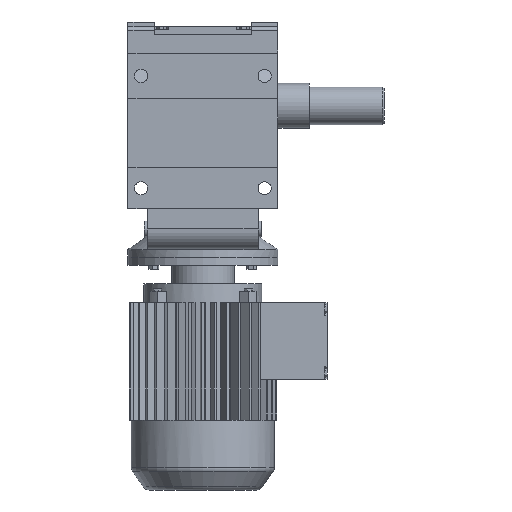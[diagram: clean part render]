
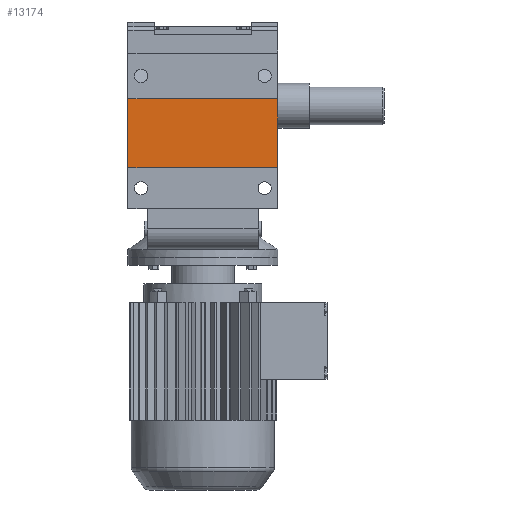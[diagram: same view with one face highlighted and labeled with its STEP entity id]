
A CAD part, front view. The second image highlights one B-rep face of the part: STEP entity #13174.
In plain terms, the highlighted planar face has unit normal (0, -1, 0).
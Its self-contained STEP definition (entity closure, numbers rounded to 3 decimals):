
#5613 = PLANE('',#5614);
#5614 = AXIS2_PLACEMENT_3D('',#5615,#5616,#5617);
#5615 = CARTESIAN_POINT('',(100.,-141.7,80.));
#5616 = DIRECTION('',(1.,0.,0.));
#5617 = DIRECTION('',(0.,0.,-1.));
#6885 = PLANE('',#6886);
#6886 = AXIS2_PLACEMENT_3D('',#6887,#6888,#6889);
#6887 = CARTESIAN_POINT('',(-100.,-141.7,80.));
#6888 = DIRECTION('',(1.,0.,0.));
#6889 = DIRECTION('',(0.,0.,-1.));
#9201 = VERTEX_POINT('',#9202);
#9202 = CARTESIAN_POINT('',(100.,-173.7,9.5));
#9216 = PLANE('',#9217);
#9217 = AXIS2_PLACEMENT_3D('',#9218,#9219,#9220);
#9218 = CARTESIAN_POINT('',(100.,-173.7,9.5));
#9219 = DIRECTION('',(0.,0.,1.));
#9220 = DIRECTION('',(1.,0.,0.));
#9228 = EDGE_CURVE('',#9201,#9229,#9231,.T.);
#9229 = VERTEX_POINT('',#9230);
#9230 = CARTESIAN_POINT('',(100.,-173.7,-82.5));
#9231 = SURFACE_CURVE('',#9232,(#9236,#9243),.PCURVE_S1.);
#9232 = LINE('',#9233,#9234);
#9233 = CARTESIAN_POINT('',(100.,-173.7,9.5));
#9234 = VECTOR('',#9235,1.);
#9235 = DIRECTION('',(0.,0.,-1.));
#9236 = PCURVE('',#5613,#9237);
#9237 = DEFINITIONAL_REPRESENTATION('',(#9238),#9242);
#9238 = LINE('',#9239,#9240);
#9239 = CARTESIAN_POINT('',(70.5,-32.));
#9240 = VECTOR('',#9241,1.);
#9241 = DIRECTION('',(1.,0.));
#9242 = ( GEOMETRIC_REPRESENTATION_CONTEXT(2) 
PARAMETRIC_REPRESENTATION_CONTEXT() REPRESENTATION_CONTEXT('2D SPACE',''
  ) );
#9243 = PCURVE('',#9244,#9249);
#9244 = PLANE('',#9245);
#9245 = AXIS2_PLACEMENT_3D('',#9246,#9247,#9248);
#9246 = CARTESIAN_POINT('',(73.75,-173.7,85.));
#9247 = DIRECTION('',(0.,1.,0.));
#9248 = DIRECTION('',(0.,0.,1.));
#9249 = DEFINITIONAL_REPRESENTATION('',(#9250),#9254);
#9250 = LINE('',#9251,#9252);
#9251 = CARTESIAN_POINT('',(-75.5,26.25));
#9252 = VECTOR('',#9253,1.);
#9253 = DIRECTION('',(-1.,0.));
#9254 = ( GEOMETRIC_REPRESENTATION_CONTEXT(2) 
PARAMETRIC_REPRESENTATION_CONTEXT() REPRESENTATION_CONTEXT('2D SPACE',''
  ) );
#9272 = PLANE('',#9273);
#9273 = AXIS2_PLACEMENT_3D('',#9274,#9275,#9276);
#9274 = CARTESIAN_POINT('',(100.,-173.7,-82.5));
#9275 = DIRECTION('',(0.,0.,-1.));
#9276 = DIRECTION('',(-1.,0.,0.));
#11994 = VERTEX_POINT('',#11995);
#11995 = CARTESIAN_POINT('',(-100.,-173.7,-82.5));
#12016 = EDGE_CURVE('',#12017,#11994,#12019,.T.);
#12017 = VERTEX_POINT('',#12018);
#12018 = CARTESIAN_POINT('',(-100.,-173.7,9.5));
#12019 = SURFACE_CURVE('',#12020,(#12024,#12031),.PCURVE_S1.);
#12020 = LINE('',#12021,#12022);
#12021 = CARTESIAN_POINT('',(-100.,-173.7,9.5));
#12022 = VECTOR('',#12023,1.);
#12023 = DIRECTION('',(0.,0.,-1.));
#12024 = PCURVE('',#6885,#12025);
#12025 = DEFINITIONAL_REPRESENTATION('',(#12026),#12030);
#12026 = LINE('',#12027,#12028);
#12027 = CARTESIAN_POINT('',(70.5,-32.));
#12028 = VECTOR('',#12029,1.);
#12029 = DIRECTION('',(1.,0.));
#12030 = ( GEOMETRIC_REPRESENTATION_CONTEXT(2) 
PARAMETRIC_REPRESENTATION_CONTEXT() REPRESENTATION_CONTEXT('2D SPACE',''
  ) );
#12031 = PCURVE('',#9244,#12032);
#12032 = DEFINITIONAL_REPRESENTATION('',(#12033),#12037);
#12033 = LINE('',#12034,#12035);
#12034 = CARTESIAN_POINT('',(-75.5,-173.75));
#12035 = VECTOR('',#12036,1.);
#12036 = DIRECTION('',(-1.,0.));
#12037 = ( GEOMETRIC_REPRESENTATION_CONTEXT(2) 
PARAMETRIC_REPRESENTATION_CONTEXT() REPRESENTATION_CONTEXT('2D SPACE',''
  ) );
#13174 = ADVANCED_FACE('',(#13175),#9244,.F.);
#13175 = FACE_BOUND('',#13176,.T.);
#13176 = EDGE_LOOP('',(#13177,#13198,#13199,#13220));
#13177 = ORIENTED_EDGE('',*,*,#13178,.T.);
#13178 = EDGE_CURVE('',#9201,#12017,#13179,.T.);
#13179 = SURFACE_CURVE('',#13180,(#13184,#13191),.PCURVE_S1.);
#13180 = LINE('',#13181,#13182);
#13181 = CARTESIAN_POINT('',(100.,-173.7,9.5));
#13182 = VECTOR('',#13183,1.);
#13183 = DIRECTION('',(-1.,0.,0.));
#13184 = PCURVE('',#9244,#13185);
#13185 = DEFINITIONAL_REPRESENTATION('',(#13186),#13190);
#13186 = LINE('',#13187,#13188);
#13187 = CARTESIAN_POINT('',(-75.5,26.25));
#13188 = VECTOR('',#13189,1.);
#13189 = DIRECTION('',(0.,-1.));
#13190 = ( GEOMETRIC_REPRESENTATION_CONTEXT(2) 
PARAMETRIC_REPRESENTATION_CONTEXT() REPRESENTATION_CONTEXT('2D SPACE',''
  ) );
#13191 = PCURVE('',#9216,#13192);
#13192 = DEFINITIONAL_REPRESENTATION('',(#13193),#13197);
#13193 = LINE('',#13194,#13195);
#13194 = CARTESIAN_POINT('',(0.,0.));
#13195 = VECTOR('',#13196,1.);
#13196 = DIRECTION('',(-1.,0.));
#13197 = ( GEOMETRIC_REPRESENTATION_CONTEXT(2) 
PARAMETRIC_REPRESENTATION_CONTEXT() REPRESENTATION_CONTEXT('2D SPACE',''
  ) );
#13198 = ORIENTED_EDGE('',*,*,#12016,.T.);
#13199 = ORIENTED_EDGE('',*,*,#13200,.F.);
#13200 = EDGE_CURVE('',#9229,#11994,#13201,.T.);
#13201 = SURFACE_CURVE('',#13202,(#13206,#13213),.PCURVE_S1.);
#13202 = LINE('',#13203,#13204);
#13203 = CARTESIAN_POINT('',(100.,-173.7,-82.5));
#13204 = VECTOR('',#13205,1.);
#13205 = DIRECTION('',(-1.,0.,0.));
#13206 = PCURVE('',#9244,#13207);
#13207 = DEFINITIONAL_REPRESENTATION('',(#13208),#13212);
#13208 = LINE('',#13209,#13210);
#13209 = CARTESIAN_POINT('',(-167.5,26.25));
#13210 = VECTOR('',#13211,1.);
#13211 = DIRECTION('',(0.,-1.));
#13212 = ( GEOMETRIC_REPRESENTATION_CONTEXT(2) 
PARAMETRIC_REPRESENTATION_CONTEXT() REPRESENTATION_CONTEXT('2D SPACE',''
  ) );
#13213 = PCURVE('',#9272,#13214);
#13214 = DEFINITIONAL_REPRESENTATION('',(#13215),#13219);
#13215 = LINE('',#13216,#13217);
#13216 = CARTESIAN_POINT('',(0.,0.));
#13217 = VECTOR('',#13218,1.);
#13218 = DIRECTION('',(1.,0.));
#13219 = ( GEOMETRIC_REPRESENTATION_CONTEXT(2) 
PARAMETRIC_REPRESENTATION_CONTEXT() REPRESENTATION_CONTEXT('2D SPACE',''
  ) );
#13220 = ORIENTED_EDGE('',*,*,#9228,.F.);
